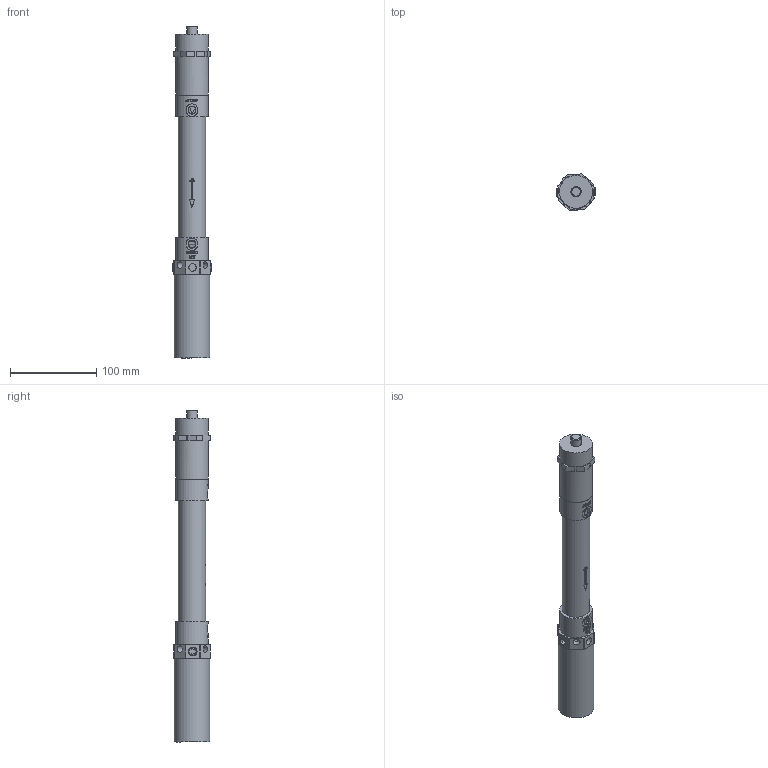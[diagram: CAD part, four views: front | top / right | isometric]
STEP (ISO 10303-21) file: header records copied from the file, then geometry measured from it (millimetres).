
FILE_DESCRIPTION(/* description */ ('ASSY,STANDARD (mm)'),/* implementation_level */ '2;1');
FILE_NAME(/* name */ 'ASSY,VFIA,50MM,CLAMP MOUNT,140MM,S4_622-89801_ALLPOS_20260323.stp',/* time_stamp */ '2026-03-23T14:06:32-04:00',/* author */ ('ASSY,VFIA,50MM,CLAMP MOUNT,140MM,S4'),/* organization */ (''),/* preprocessor_version */ 'ST-DEVELOPER v20',/* originating_system */ 'Autodesk Inventor 2024',/* authorisation */ '');
FILE_SCHEMA (('AUTOMOTIVE_DESIGN { 1 0 10303 214 3 1 1 }'));
Products named in the file (18): ASSY,VFIA,50MM,CLAMP MOUNT,140MM,S4_0004828668_TOP; ASSY,VFIA,50MM,CLAMP MOUNT,140MM,S4_0004828668; HOLDER,LVDT,CLAMP_MNT,140MM; FIT, BRASS, PIPE, PLUG 1_8_ _1NLV5; ASSY,ROD,PISTON,69MM,IA,140MM,CLMP_MNT; ROD,PISTON,IA,CLAMP_MOUNT,FOR_140MM_0003168663; O-RING, 020_1K91A; CORE,VF,IA,SENSING_69MM,78MM_LENGTH_0002711485; LOCK,PIN,IA_0002498416; REPLACE WITH - 0003600407_0001978302; VF87H-4-26_0004828004; AS568-117; O-RING,AS568,DUROM 70,3_8 in ID X 1_8 in_0000750627; VFAHSS-4-381; AS568-028; VF87H-4-26_0004828003; BALL, SS, 1.75 MM DIA_0002381368; ASSY,INSERT,IA,69MM_STROKE_0003379980
Assembly tree (19 placements, depth 4):
  ASSY,VFIA,50MM,CLAMP MOUNT,140MM,S4_0004828668_TOP
    ASSY,VFIA,50MM,CLAMP MOUNT,140MM,S4_0004828668
      HOLDER,LVDT,CLAMP_MNT,140MM
      FIT, BRASS, PIPE, PLUG 1_8_ _1NLV5  x2
      ASSY,ROD,PISTON,69MM,IA,140MM,CLMP_MNT
        ROD,PISTON,IA,CLAMP_MOUNT,FOR_140MM_0003168663
        O-RING, 020_1K91A
        CORE,VF,IA,SENSING_69MM,78MM_LENGTH_0002711485
        LOCK,PIN,IA_0002498416
        REPLACE WITH - 0003600407_0001978302
      VF87H-4-26_0004828004
        AS568-028  x2
        AS568-117
        O-RING,AS568,DUROM 70,3_8 in ID X 1_8 in_0000750627
        VFAHSS-4-381
        VF87H-4-26_0004828003
        BALL, SS, 1.75 MM DIA_0002381368
      ASSY,INSERT,IA,69MM_STROKE_0003379980
Bounding box: 45.56 x 42.02 x 385.05 mm (x, y, z)
Volume: 293098.5 mm3; surface area: 122729.5 mm2
Topology: 17 solids, 17 shells, 446 faces, 1071 edges, 710 vertices
Faces by surface type: plane 220, cylinder 99, bspline 93, cone 26, torus 7, sphere 1
Full cylindrical faces by diameter (mm): 1.587 x1, 3.937 x1, 4 x2, 4.75 x3, 6 x1, 6.502 x2, 7.938 x4, 8.5 x1, 8.731 x4, 9.459 x1, 9.525 x1, 9.9 x1, 10.82 x2, 11.113 x2, 12 x1, 15.748 x1, 19.05 x2, 20.269 x1, 21.006 x1, 22.098 x1, 22.225 x1, 24.842 x2, 24.892 x1, 25.4 x1, 25.425 x2, 26.289 x1, 27.203 x1, 29.369 x1, 31.115 x1, 31.75 x2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
Entity records: 35269 total; most frequent: CARTESIAN_POINT 24574, ORIENTED_EDGE 2068, DIRECTION 1996, EDGE_CURVE 1034, AXIS2_PLACEMENT_3D 757, VERTEX_POINT 691, EDGE_LOOP 525, LINE 482
